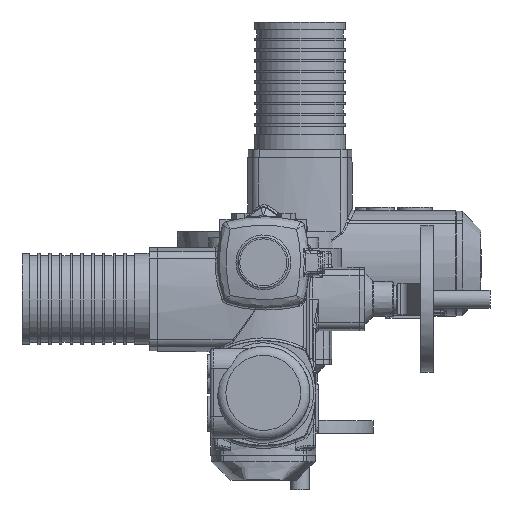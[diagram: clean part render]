
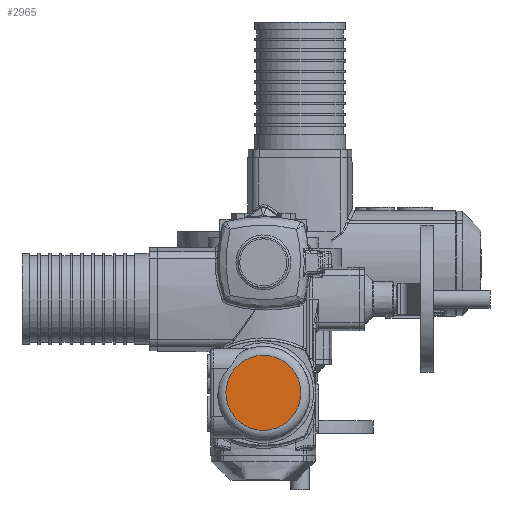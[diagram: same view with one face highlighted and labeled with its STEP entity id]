
A CAD part, top view. The second image highlights one B-rep face of the part: STEP entity #2965.
In plain terms, the highlighted planar face has unit normal (0, 0, 1) as drawn and (0, 0, -1) by its records, which use the part's own axes.
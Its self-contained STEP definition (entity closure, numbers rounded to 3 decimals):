
#2965 = ADVANCED_FACE( '', ( #6744 ), #6745, .F. );
#6744 = FACE_OUTER_BOUND( '', #14990, .T. );
#6745 = PLANE( '', #14991 );
#14990 = EDGE_LOOP( '', ( #28490 ) );
#14991 = AXIS2_PLACEMENT_3D( '', #28491, #28492, #28493 );
#28490 = ORIENTED_EDGE( '', *, *, #38313, .T. );
#28491 = CARTESIAN_POINT( '', ( 143., 0., -209. ) );
#28492 = DIRECTION( '', ( 0., 0., 1. ) );
#28493 = DIRECTION( '', ( 1., 0., 0. ) );
#38313 = EDGE_CURVE( '', #44888, #44888, #44889, .F. );
#44888 = VERTEX_POINT( '', #65909 );
#44889 = CIRCLE( '', #65910, 41. );
#65909 = CARTESIAN_POINT( '', ( 184., 0., -209. ) );
#65910 = AXIS2_PLACEMENT_3D( '', #72810, #72811, #72812 );
#72810 = CARTESIAN_POINT( '', ( 143., 0., -209. ) );
#72811 = DIRECTION( '', ( 0., 0., 1. ) );
#72812 = DIRECTION( '', ( 1., 0., 0. ) );
